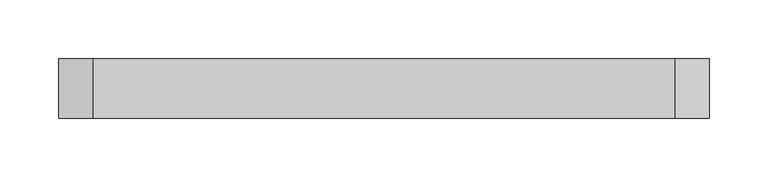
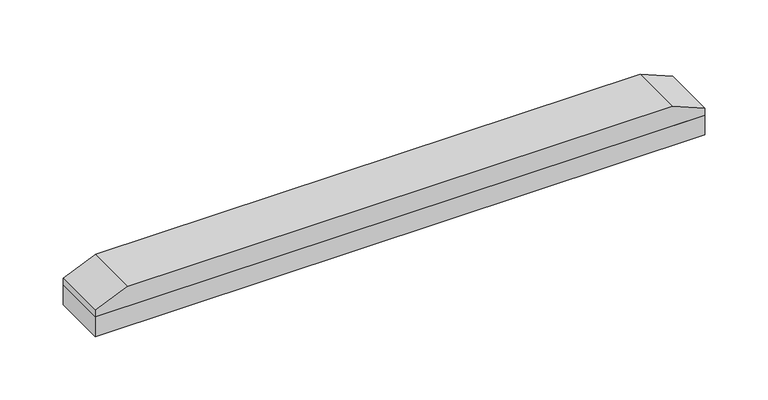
"""IFC4 building model written with IfcOpenShell, lengths in millimetres: proxy geometry, Spinneybeck_ARO Plank 8 : B - 2’-9” x 2” x 3/4”."""

from ifc_helpers import new_model, si_unit, frame, origin, origin_with_axes, place, context, project, spatial, polyline, outline, extrude, source, transform, mapped, element, save


def specialty_equipment_349e55ab(model_context):
    return source(origin(), model_context, "Body", "SweptSolid", [
        extrude(outline(polyline([(19.05, -277.82831), (19.05, 277.82831), (25.4, 277.82831), (38.1, 248.1949767), (38.1, -248.1949767), (25.4, -277.82831), (19.05, -277.82831)])), frame((0.0, -25.4, 0.0), z_axis=(0.0, 1.0, 0.0), x_axis=(0.0, 0.0, 1.0)), (0.0, 0.0, 1.0), 50.8),
        extrude(outline(polyline([(-277.82831, -25.4), (-277.82831, 25.4), (277.82831, 25.4), (277.82831, -25.4), (-277.82831, -25.4)])), origin_with_axes(), (0.0, 0.0, 1.0), 19.05),
    ])


if __name__ == "__main__":
    model = new_model("IFC4")
    model_context = context("Model", 3, world=origin())
    ifc_project = project(units=[si_unit("LENGTHUNIT", "METRE", prefix="MILLI")], contexts=[model_context])
    site = spatial("IfcSite", under=ifc_project)
    building = spatial("IfcBuilding", under=site)
    placement = place(None, origin())
    specialty_equipment_shape = specialty_equipment_349e55ab(model_context)
    element("IfcBuildingElementProxy", 1, Name="Spinneybeck_ARO Plank 8 : B - 2’-9” x 2” x 3/4”", ObjectType="Spinneybeck_ARO Plank 8 : B - 2’-9” x 2” x 3/4”", at=placement, inside=building, context=model_context, shape_type="MappedRepresentation", body=[
        mapped(specialty_equipment_shape, transform((0.0, 0.0, 0.0), x_axis=(1.0, 0.0, 0.0), y_axis=(0.0, 1.0, 0.0), z_axis=(0.0, 0.0, 1.0))),
    ])
    save(model, "model.ifc")
